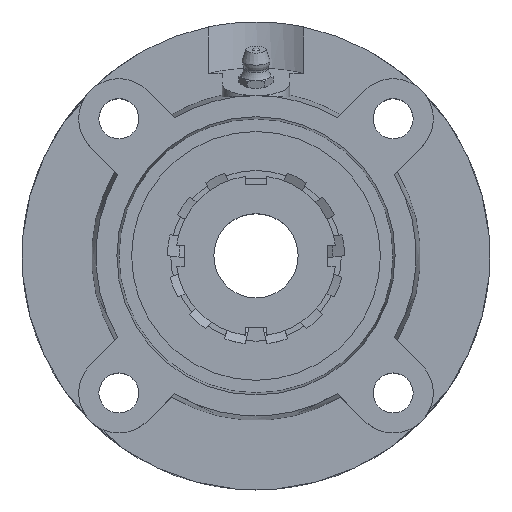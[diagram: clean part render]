
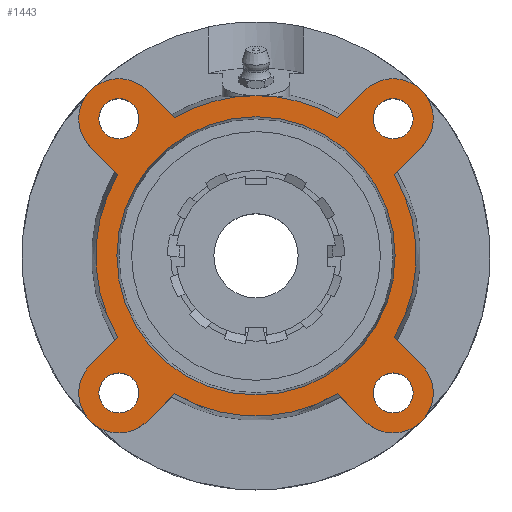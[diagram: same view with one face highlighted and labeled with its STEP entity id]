
A CAD part, top view. The second image highlights one B-rep face of the part: STEP entity #1443.
In plain terms, the highlighted planar face has unit normal (0, 0, 1).
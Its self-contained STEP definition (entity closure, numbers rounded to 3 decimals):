
#181=CARTESIAN_POINT('',(27.777,-32.527,14.));
#182=VERTEX_POINT('',#181);
#183=CARTESIAN_POINT('',(32.527,-32.527,14.));
#184=DIRECTION('',(0.0,0.0,-1.0));
#185=DIRECTION('',(1.0,0.0,0.0));
#186=AXIS2_PLACEMENT_3D('',#183,#184,#185);
#187=CIRCLE('',#186,4.75);
#188=EDGE_CURVE('',#182,#182,#187,.T.);
#209=CARTESIAN_POINT('',(-37.277,32.527,14.));
#210=VERTEX_POINT('',#209);
#211=CARTESIAN_POINT('',(-32.527,32.527,14.));
#212=DIRECTION('',(0.0,0.0,-1.0));
#213=DIRECTION('',(1.0,0.0,0.0));
#214=AXIS2_PLACEMENT_3D('',#211,#212,#213);
#215=CIRCLE('',#214,4.75);
#216=EDGE_CURVE('',#210,#210,#215,.T.);
#237=CARTESIAN_POINT('',(-37.277,-32.527,14.));
#238=VERTEX_POINT('',#237);
#239=CARTESIAN_POINT('',(-32.527,-32.527,14.));
#240=DIRECTION('',(0.0,0.0,-1.0));
#241=DIRECTION('',(1.0,0.0,0.0));
#242=AXIS2_PLACEMENT_3D('',#239,#240,#241);
#243=CIRCLE('',#242,4.75);
#244=EDGE_CURVE('',#238,#238,#243,.T.);
#265=CARTESIAN_POINT('',(27.777,32.527,14.));
#266=VERTEX_POINT('',#265);
#267=CARTESIAN_POINT('',(32.527,32.527,14.));
#268=DIRECTION('',(0.0,0.0,-1.0));
#269=DIRECTION('',(1.0,0.0,0.0));
#270=AXIS2_PLACEMENT_3D('',#267,#268,#269);
#271=CIRCLE('',#270,4.75);
#272=EDGE_CURVE('',#266,#266,#271,.T.);
#445=CARTESIAN_POINT('',(0.0,33.,14.));
#446=VERTEX_POINT('',#445);
#447=CARTESIAN_POINT('',(0.0,0.,14.));
#448=DIRECTION('',(0.0,0.0,-1.0));
#449=DIRECTION('',(0.0,1.0,0.0));
#450=AXIS2_PLACEMENT_3D('',#447,#448,#449);
#451=CIRCLE('',#450,33.);
#452=EDGE_CURVE('',#446,#446,#451,.T.);
#722=CARTESIAN_POINT('',(0.,38.,14.));
#723=VERTEX_POINT('',#722);
#845=CARTESIAN_POINT('',(-19.299,32.734,14.));
#846=VERTEX_POINT('',#845);
#860=CARTESIAN_POINT('',(0.0,0.,14.0));
#861=DIRECTION('',(0.0,0.0,-1.0));
#862=DIRECTION('',(0.0,1.0,0.0));
#863=AXIS2_PLACEMENT_3D('',#860,#861,#862);
#864=CIRCLE('',#863,38.);
#865=EDGE_CURVE('',#846,#723,#864,.T.);
#878=CARTESIAN_POINT('',(19.299,32.734,14.));
#879=VERTEX_POINT('',#878);
#880=CARTESIAN_POINT('',(0.0,0.,14.0));
#881=DIRECTION('',(0.0,0.0,-1.0));
#882=DIRECTION('',(0.0,1.0,0.0));
#883=AXIS2_PLACEMENT_3D('',#880,#881,#882);
#884=CIRCLE('',#883,38.);
#885=EDGE_CURVE('',#723,#879,#884,.T.);
#909=CARTESIAN_POINT('',(-32.734,19.299,14.));
#910=VERTEX_POINT('',#909);
#926=CARTESIAN_POINT('',(-39.244,25.809,14.));
#927=VERTEX_POINT('',#926);
#928=CARTESIAN_POINT('',(-32.734,19.299,14.0));
#929=DIRECTION('',(-0.707,0.707,0.0));
#930=VECTOR('',#929,9.207);
#931=LINE('',#928,#930);
#932=EDGE_CURVE('',#910,#927,#931,.T.);
#956=CARTESIAN_POINT('',(-19.299,-32.734,14.));
#957=VERTEX_POINT('',#956);
#973=CARTESIAN_POINT('',(-25.809,-39.244,14.));
#974=VERTEX_POINT('',#973);
#975=CARTESIAN_POINT('',(-19.299,-32.734,14.));
#976=DIRECTION('',(-0.707,-0.707,0.0));
#977=VECTOR('',#976,9.207);
#978=LINE('',#975,#977);
#979=EDGE_CURVE('',#957,#974,#978,.T.);
#1003=CARTESIAN_POINT('',(32.734,-19.299,14.));
#1004=VERTEX_POINT('',#1003);
#1020=CARTESIAN_POINT('',(39.244,-25.809,14.));
#1021=VERTEX_POINT('',#1020);
#1022=CARTESIAN_POINT('',(32.734,-19.299,14.));
#1023=DIRECTION('',(0.707,-0.707,0.0));
#1024=VECTOR('',#1023,9.207);
#1025=LINE('',#1022,#1024);
#1026=EDGE_CURVE('',#1004,#1021,#1025,.T.);
#1051=CARTESIAN_POINT('',(25.809,39.244,14.));
#1052=VERTEX_POINT('',#1051);
#1053=CARTESIAN_POINT('',(19.299,32.734,14.));
#1054=DIRECTION('',(0.707,0.707,0.0));
#1055=VECTOR('',#1054,9.207);
#1056=LINE('',#1053,#1055);
#1057=EDGE_CURVE('',#879,#1052,#1056,.T.);
#1076=CARTESIAN_POINT('',(19.299,-32.734,14.));
#1077=VERTEX_POINT('',#1076);
#1099=CARTESIAN_POINT('',(25.809,-39.244,14.));
#1100=VERTEX_POINT('',#1099);
#1107=CARTESIAN_POINT('',(25.809,-39.244,14.));
#1108=DIRECTION('',(-0.707,0.707,0.0));
#1109=VECTOR('',#1108,9.207);
#1110=LINE('',#1107,#1109);
#1111=EDGE_CURVE('',#1100,#1077,#1110,.T.);
#1121=CARTESIAN_POINT('',(-39.244,-25.809,14.));
#1122=VERTEX_POINT('',#1121);
#1123=CARTESIAN_POINT('',(-32.527,-32.527,14.));
#1124=DIRECTION('',(0.0,0.0,-1.0));
#1125=DIRECTION('',(-0.63,0.776,0.0));
#1126=AXIS2_PLACEMENT_3D('',#1123,#1124,#1125);
#1127=CIRCLE('',#1126,9.5);
#1128=EDGE_CURVE('',#974,#1122,#1127,.T.);
#1163=CARTESIAN_POINT('',(-32.734,-19.299,14.));
#1164=VERTEX_POINT('',#1163);
#1185=CARTESIAN_POINT('',(-39.244,-25.809,14.));
#1186=DIRECTION('',(0.707,0.707,0.0));
#1187=VECTOR('',#1186,9.207);
#1188=LINE('',#1185,#1187);
#1189=EDGE_CURVE('',#1122,#1164,#1188,.T.);
#1199=CARTESIAN_POINT('',(-25.809,39.244,14.));
#1200=VERTEX_POINT('',#1199);
#1201=CARTESIAN_POINT('',(-32.527,32.527,14.));
#1202=DIRECTION('',(0.0,0.0,-1.0));
#1203=DIRECTION('',(0.776,0.63,0.0));
#1204=AXIS2_PLACEMENT_3D('',#1201,#1202,#1203);
#1205=CIRCLE('',#1204,9.5);
#1206=EDGE_CURVE('',#927,#1200,#1205,.T.);
#1234=CARTESIAN_POINT('',(-25.809,39.244,14.));
#1235=DIRECTION('',(0.707,-0.707,0.0));
#1236=VECTOR('',#1235,9.207);
#1237=LINE('',#1234,#1236);
#1238=EDGE_CURVE('',#1200,#846,#1237,.T.);
#1248=CARTESIAN_POINT('',(39.244,25.809,14.));
#1249=VERTEX_POINT('',#1248);
#1250=CARTESIAN_POINT('',(32.527,32.527,14.));
#1251=DIRECTION('',(0.0,0.0,-1.0));
#1252=DIRECTION('',(0.63,-0.776,0.0));
#1253=AXIS2_PLACEMENT_3D('',#1250,#1251,#1252);
#1254=CIRCLE('',#1253,9.5);
#1255=EDGE_CURVE('',#1052,#1249,#1254,.T.);
#1284=CARTESIAN_POINT('',(32.734,19.299,14.));
#1285=VERTEX_POINT('',#1284);
#1306=CARTESIAN_POINT('',(39.244,25.809,14.));
#1307=DIRECTION('',(-0.707,-0.707,0.0));
#1308=VECTOR('',#1307,9.207);
#1309=LINE('',#1306,#1308);
#1310=EDGE_CURVE('',#1249,#1285,#1309,.T.);
#1320=CARTESIAN_POINT('',(32.527,-32.527,14.));
#1321=DIRECTION('',(0.0,0.0,-1.0));
#1322=DIRECTION('',(-0.776,-0.63,0.0));
#1323=AXIS2_PLACEMENT_3D('',#1320,#1321,#1322);
#1324=CIRCLE('',#1323,9.5);
#1325=EDGE_CURVE('',#1021,#1100,#1324,.T.);
#1386=CARTESIAN_POINT('',(0.0,19.0,14.0));
#1387=DIRECTION('',(0.0,0.0,1.0));
#1388=DIRECTION('',(1.0,0.0,0.0));
#1389=AXIS2_PLACEMENT_3D('',#1386,#1387,#1388);
#1390=PLANE('',#1389);
#1391=CARTESIAN_POINT('',(0.0,0.,14.0));
#1392=DIRECTION('',(0.0,0.0,-1.0));
#1393=DIRECTION('',(0.0,1.0,0.0));
#1394=AXIS2_PLACEMENT_3D('',#1391,#1392,#1393);
#1395=CIRCLE('',#1394,38.);
#1396=EDGE_CURVE('',#1077,#957,#1395,.T.);
#1397=ORIENTED_EDGE('',*,*,#1396,.F.);
#1398=ORIENTED_EDGE('',*,*,#1111,.F.);
#1399=ORIENTED_EDGE('',*,*,#1325,.F.);
#1400=ORIENTED_EDGE('',*,*,#1026,.F.);
#1401=CARTESIAN_POINT('',(0.0,0.,14.0));
#1402=DIRECTION('',(0.0,0.0,-1.0));
#1403=DIRECTION('',(0.0,1.0,0.0));
#1404=AXIS2_PLACEMENT_3D('',#1401,#1402,#1403);
#1405=CIRCLE('',#1404,38.);
#1406=EDGE_CURVE('',#1285,#1004,#1405,.T.);
#1407=ORIENTED_EDGE('',*,*,#1406,.F.);
#1408=ORIENTED_EDGE('',*,*,#1310,.F.);
#1409=ORIENTED_EDGE('',*,*,#1255,.F.);
#1410=ORIENTED_EDGE('',*,*,#1057,.F.);
#1411=ORIENTED_EDGE('',*,*,#885,.F.);
#1412=ORIENTED_EDGE('',*,*,#865,.F.);
#1413=ORIENTED_EDGE('',*,*,#1238,.F.);
#1414=ORIENTED_EDGE('',*,*,#1206,.F.);
#1415=ORIENTED_EDGE('',*,*,#932,.F.);
#1416=CARTESIAN_POINT('',(0.0,0.,14.0));
#1417=DIRECTION('',(0.0,0.0,-1.0));
#1418=DIRECTION('',(0.0,1.0,0.0));
#1419=AXIS2_PLACEMENT_3D('',#1416,#1417,#1418);
#1420=CIRCLE('',#1419,38.);
#1421=EDGE_CURVE('',#1164,#910,#1420,.T.);
#1422=ORIENTED_EDGE('',*,*,#1421,.F.);
#1423=ORIENTED_EDGE('',*,*,#1189,.F.);
#1424=ORIENTED_EDGE('',*,*,#1128,.F.);
#1425=ORIENTED_EDGE('',*,*,#979,.F.);
#1426=EDGE_LOOP('',(#1397,#1398,#1399,#1400,#1407,#1408,#1409,#1410,#1411,#1412,#1413,#1414,#1415,#1422,#1423,#1424,#1425));
#1427=FACE_OUTER_BOUND('',#1426,.T.);
#1428=ORIENTED_EDGE('',*,*,#188,.T.);
#1429=EDGE_LOOP('',(#1428));
#1430=FACE_BOUND('',#1429,.T.);
#1431=ORIENTED_EDGE('',*,*,#216,.T.);
#1432=EDGE_LOOP('',(#1431));
#1433=FACE_BOUND('',#1432,.T.);
#1434=ORIENTED_EDGE('',*,*,#244,.T.);
#1435=EDGE_LOOP('',(#1434));
#1436=FACE_BOUND('',#1435,.T.);
#1437=ORIENTED_EDGE('',*,*,#272,.T.);
#1438=EDGE_LOOP('',(#1437));
#1439=FACE_BOUND('',#1438,.T.);
#1440=ORIENTED_EDGE('',*,*,#452,.T.);
#1441=EDGE_LOOP('',(#1440));
#1442=FACE_BOUND('',#1441,.T.);
#1443=ADVANCED_FACE('',(#1427,#1430,#1433,#1436,#1439,#1442),#1390,.T.);
